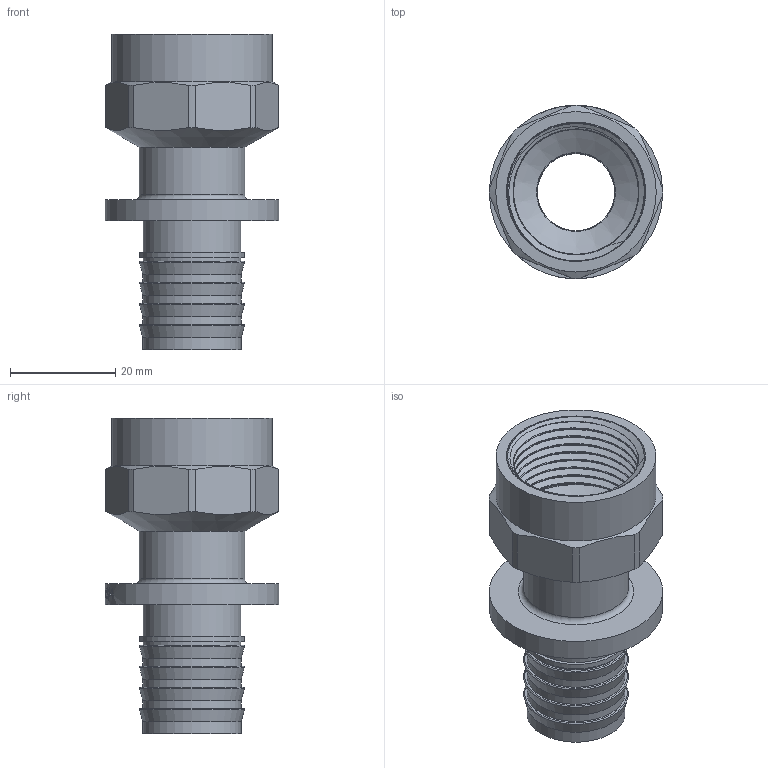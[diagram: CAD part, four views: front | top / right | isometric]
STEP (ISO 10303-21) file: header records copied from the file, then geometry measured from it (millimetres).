
FILE_DESCRIPTION(/* description */ (''),/* implementation_level */ '2;1');
FILE_NAME(/* name */ 'C:\Users\Doom\Desktop\Фадотех\Натяжка\SFM24_NEW 25x0.75F 29.05.2020\SFM24_NEW 25x0.75F 29.05.2020.stp',/* time_stamp */ '2022-07-25T15:28:10+03:00',/* author */ ('Doom'),/* organization */ (''),/* preprocessor_version */ 'ST-DEVELOPER v18',/* originating_system */ 'Autodesk Inventor 2020',/* authorisation */ '');
FILE_SCHEMA (('AUTOMOTIVE_DESIGN { 1 0 10303 214 3 1 1 }'));
Length unit declared in the file: millimetre
Products named in the file (1): SFM24_NEW 25x0.75F 29.05.2020
Bounding box: 33 x 33 x 60 mm (x, y, z)
Volume: 13526.6 mm3; surface area: 13765.3 mm2
Topology: 2 solids, 2 shells, 194 faces, 548 edges, 374 vertices
Faces by surface type: bspline 70, plane 69, cylinder 41, cone 9, torus 5
Full cylindrical faces by diameter (mm): 14.7 x1, 15 x1, 18.626 x2, 18.668 x3, 18.687 x1, 19.9 x1, 20 x1, 23.75 x8, 26.44 x2, 30.5 x1, 33 x1
Entity records: 12332 total; most frequent: CARTESIAN_POINT 7663, ORIENTED_EDGE 1088, DIRECTION 773, EDGE_CURVE 544, VERTEX_POINT 372, AXIS2_PLACEMENT_3D 285, EDGE_LOOP 216, LINE 203
